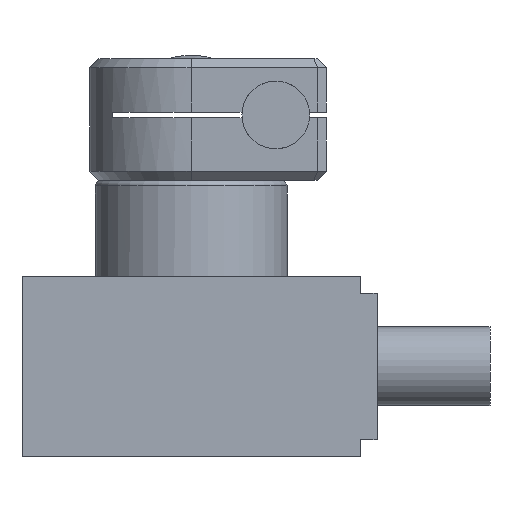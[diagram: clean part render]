
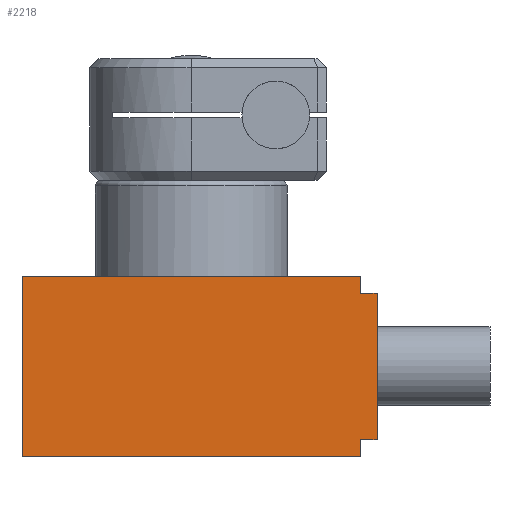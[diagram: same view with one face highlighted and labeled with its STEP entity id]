
A CAD part, front view. The second image highlights one B-rep face of the part: STEP entity #2218.
In plain terms, the highlighted planar face has unit normal (0, -1, 0) as drawn and (0, 0, -1) by its records, which use the part's own axes.
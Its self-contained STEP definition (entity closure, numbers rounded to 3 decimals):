
#155=LINE('',#3468,#369);
#159=LINE('',#3479,#373);
#167=LINE('',#3494,#381);
#199=LINE('',#3597,#413);
#215=LINE('',#3642,#429);
#231=LINE('',#3675,#445);
#234=LINE('',#3680,#448);
#235=LINE('',#3682,#449);
#369=VECTOR('',#2841,13.);
#373=VECTOR('',#2849,1.5);
#381=VECTOR('',#2857,1.5);
#413=VECTOR('',#2961,30.);
#429=VECTOR('',#3005,16.);
#445=VECTOR('',#3043,30.);
#448=VECTOR('',#3050,1.5);
#449=VECTOR('',#3053,1.5);
#538=PLANE('',#2427);
#688=FACE_OUTER_BOUND('',#838,.T.);
#838=EDGE_LOOP('',(#1990,#1991,#1992,#1993,#1994,#1995,#1996,#1997));
#1051=VERTEX_POINT('',#3465);
#1052=VERTEX_POINT('',#3467);
#1054=VERTEX_POINT('',#3472);
#1056=VERTEX_POINT('',#3476);
#1057=VERTEX_POINT('',#3478);
#1064=VERTEX_POINT('',#3492);
#1099=VERTEX_POINT('',#3595);
#1114=VERTEX_POINT('',#3640);
#1309=EDGE_CURVE('',#1052,#1051,#155,.T.);
#1314=EDGE_CURVE('',#1057,#1056,#159,.T.);
#1322=EDGE_CURVE('',#1054,#1064,#167,.T.);
#1371=EDGE_CURVE('',#1064,#1099,#199,.T.);
#1393=EDGE_CURVE('',#1114,#1099,#215,.T.);
#1410=EDGE_CURVE('',#1114,#1057,#231,.T.);
#1413=EDGE_CURVE('',#1056,#1052,#234,.T.);
#1414=EDGE_CURVE('',#1054,#1051,#235,.T.);
#1990=ORIENTED_EDGE('',*,*,#1309,.T.);
#1991=ORIENTED_EDGE('',*,*,#1414,.F.);
#1992=ORIENTED_EDGE('',*,*,#1322,.T.);
#1993=ORIENTED_EDGE('',*,*,#1371,.T.);
#1994=ORIENTED_EDGE('',*,*,#1393,.F.);
#1995=ORIENTED_EDGE('',*,*,#1410,.T.);
#1996=ORIENTED_EDGE('',*,*,#1314,.T.);
#1997=ORIENTED_EDGE('',*,*,#1413,.T.);
#2218=ADVANCED_FACE('',(#688),#538,.T.);
#2427=AXIS2_PLACEMENT_3D('',#3681,#3051,#3052);
#2841=DIRECTION('',(0.,-1.,0.));
#2849=DIRECTION('',(0.,-1.,0.));
#2857=DIRECTION('',(0.,-1.,0.));
#2961=DIRECTION('',(-1.,0.,0.));
#3005=DIRECTION('',(0.,-1.,0.));
#3043=DIRECTION('',(1.,0.,0.));
#3050=DIRECTION('',(1.,0.,0.));
#3051=DIRECTION('center_axis',(0.,0.,-1.));
#3052=DIRECTION('ref_axis',(-1.,0.,0.));
#3053=DIRECTION('',(1.,0.,0.));
#3465=CARTESIAN_POINT('',(16.5,-14.5,-40.));
#3467=CARTESIAN_POINT('',(16.5,-1.5,-40.));
#3468=CARTESIAN_POINT('',(16.5,-1.5,-40.));
#3472=CARTESIAN_POINT('',(15.,-14.5,-40.));
#3476=CARTESIAN_POINT('',(15.,-1.5,-40.));
#3478=CARTESIAN_POINT('',(15.,0.,-40.));
#3479=CARTESIAN_POINT('',(15.,0.,-40.));
#3492=CARTESIAN_POINT('',(15.,-16.,-40.));
#3494=CARTESIAN_POINT('',(15.,-14.5,-40.));
#3595=CARTESIAN_POINT('',(-15.,-16.,-40.));
#3597=CARTESIAN_POINT('',(15.,-16.,-40.));
#3640=CARTESIAN_POINT('',(-15.,0.,-40.));
#3642=CARTESIAN_POINT('',(-15.,0.,-40.));
#3675=CARTESIAN_POINT('',(-15.,0.,-40.));
#3680=CARTESIAN_POINT('',(15.,-1.5,-40.));
#3681=CARTESIAN_POINT('Origin',(15.,-1.5,-40.));
#3682=CARTESIAN_POINT('',(15.,-14.5,-40.));
